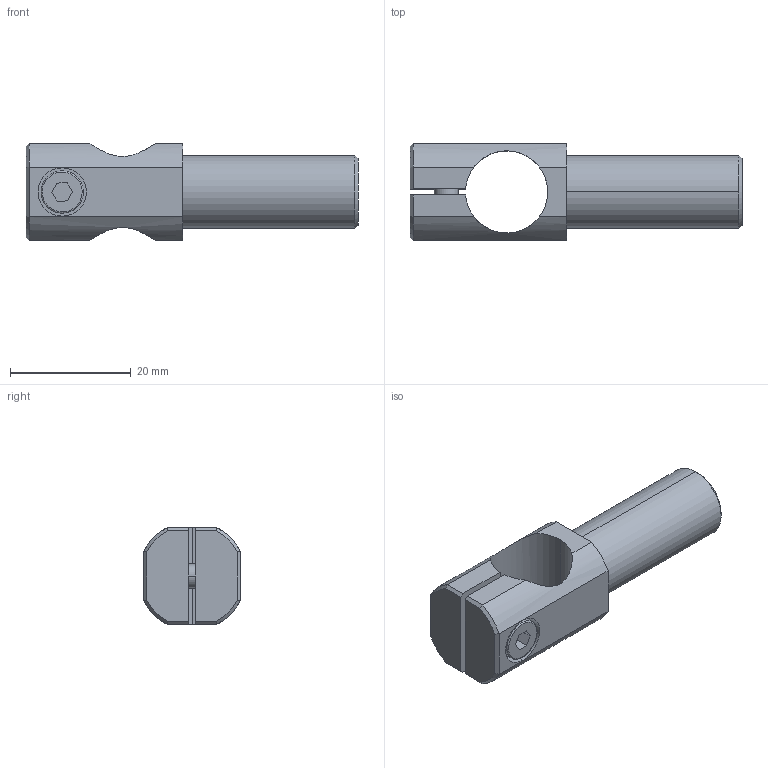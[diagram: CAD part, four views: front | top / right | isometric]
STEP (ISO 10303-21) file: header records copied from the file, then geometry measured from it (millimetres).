
FILE_DESCRIPTION (( 'STEP AP214' ), '1' );
FILE_NAME ('SMBR4-1212M4L.STEP', '2019-11-07T02:01:41', ( '微软用户' ), ( '微软中国' ), 'SwSTEP 2.0', 'SolidWorks 2016', '' );
FILE_SCHEMA (( 'AUTOMOTIVE_DESIGN' ));
Length unit declared in the file: millimetre
Products named in the file (1): SMBR4-1212M4L
Bounding box: 55 x 16 x 16 mm (x, y, z)
Volume: 6683.9 mm3; surface area: 4248.5 mm2
Topology: 3 solids, 3 shells, 263 faces, 739 edges, 486 vertices
Faces by surface type: plane 225, cylinder 26, cone 10, bspline 2
Entity records: 11705 total; most frequent: CARTESIAN_POINT 1753, DIRECTION 1501, ORIENTED_EDGE 1478, EDGE_CURVE 739, AXIS2_PLACEMENT_3D 516, VERTEX_POINT 486, VECTOR 469, LINE 469
